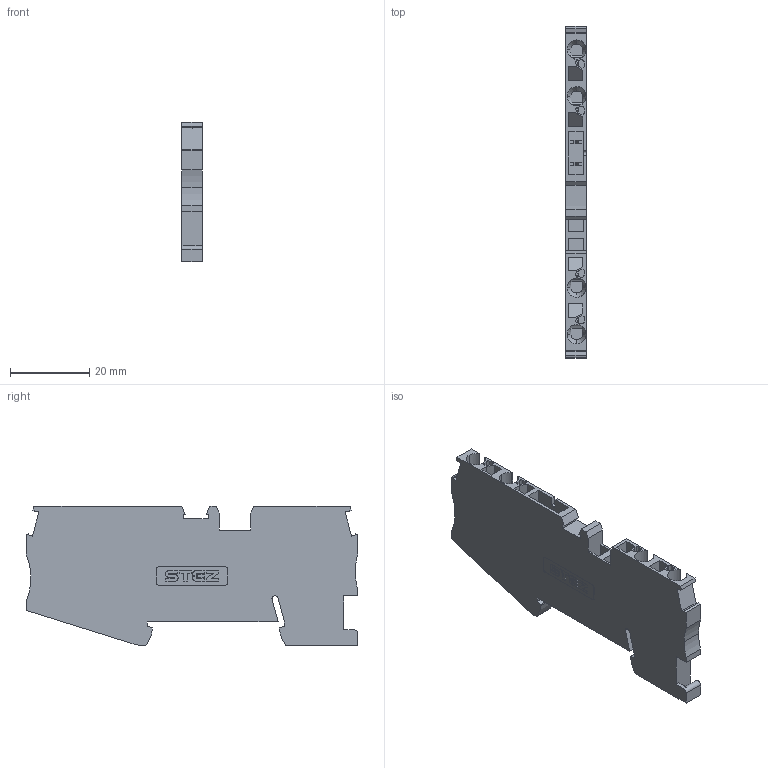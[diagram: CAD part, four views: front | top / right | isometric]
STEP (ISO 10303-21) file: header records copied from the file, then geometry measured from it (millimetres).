
FILE_DESCRIPTION(('TFLEX Exchange Step'),'2;1');
FILE_NAME('10200020_КНЗ_2,5-4-ВСТ.stp', '2024-03-12T10:31:09+03:00',('apanin'),('Unknown organisation'),'TFLEX Exchange 2023.2','T-FLEX CAD','Unknown authorisation');
FILE_SCHEMA( ('AUTOMOTIVE_DESIGN { 1 0 10303 214 1 1 1 1 }') );
Length unit declared in the file: millimetre
Products named in the file (1): Тело_1 - ST_2.5_QUATTRO_TG-select:1
Bounding box: 5.15 x 84 x 35.25 mm (x, y, z)
Volume: 10754.8 mm3; surface area: 8519.8 mm2
Topology: 1 solids, 1 shells, 524 faces, 1493 edges, 986 vertices
Faces by surface type: plane 279, cylinder 221, cone 24
Entity records: 17892 total; most frequent: CARTESIAN_POINT 3870, ORIENTED_EDGE 2986, DIRECTION 2902, EDGE_CURVE 1493, VERTEX_POINT 986, VECTOR 978, LINE 978, AXIS2_PLACEMENT_3D 962
